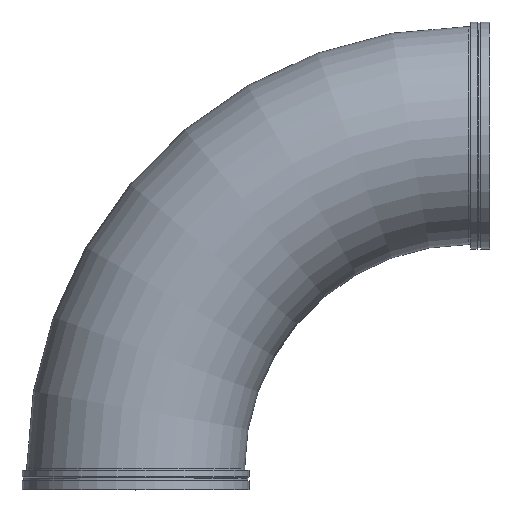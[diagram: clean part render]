
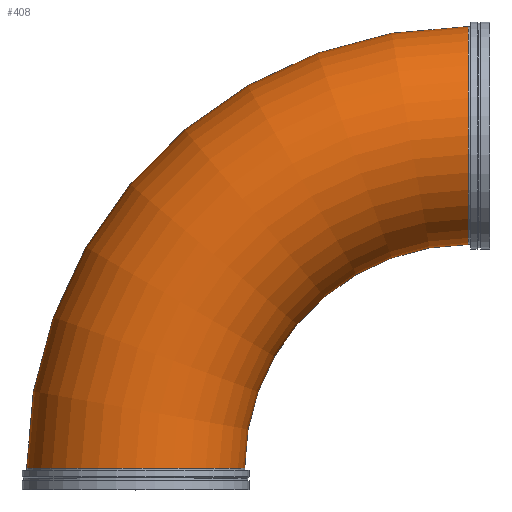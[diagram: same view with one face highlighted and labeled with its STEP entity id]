
A CAD part, top view. The second image highlights one B-rep face of the part: STEP entity #408.
In plain terms, the highlighted toroidal (fillet/blend) face has major radius 1860.55 mm and minor radius 609.6 mm.
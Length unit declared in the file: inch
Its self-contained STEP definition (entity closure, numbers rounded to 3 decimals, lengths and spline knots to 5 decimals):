
#46=TOROIDAL_SURFACE('',#484,73.25,24.);
#105=FACE_OUTER_BOUND('',#129,.T.);
#129=EDGE_LOOP('',(#346,#347,#348,#349,#350,#351));
#169=CIRCLE('',#482,24.);
#170=CIRCLE('',#483,24.);
#171=CIRCLE('',#485,49.25);
#172=CIRCLE('',#486,24.);
#173=CIRCLE('',#487,24.);
#207=VERTEX_POINT('',#756);
#208=VERTEX_POINT('',#758);
#209=VERTEX_POINT('',#762);
#210=VERTEX_POINT('',#764);
#256=EDGE_CURVE('',#207,#208,#169,.T.);
#257=EDGE_CURVE('',#208,#207,#170,.T.);
#258=EDGE_CURVE('',#208,#209,#171,.T.);
#259=EDGE_CURVE('',#209,#210,#172,.T.);
#260=EDGE_CURVE('',#210,#209,#173,.T.);
#346=ORIENTED_EDGE('',*,*,#256,.F.);
#347=ORIENTED_EDGE('',*,*,#257,.F.);
#348=ORIENTED_EDGE('',*,*,#258,.T.);
#349=ORIENTED_EDGE('',*,*,#259,.T.);
#350=ORIENTED_EDGE('',*,*,#260,.T.);
#351=ORIENTED_EDGE('',*,*,#258,.F.);
#408=ADVANCED_FACE('',(#105),#46,.T.);
#482=AXIS2_PLACEMENT_3D('',#759,#617,#618);
#483=AXIS2_PLACEMENT_3D('',#760,#619,#620);
#484=AXIS2_PLACEMENT_3D('',#761,#621,#622);
#485=AXIS2_PLACEMENT_3D('',#763,#623,#624);
#486=AXIS2_PLACEMENT_3D('',#765,#625,#626);
#487=AXIS2_PLACEMENT_3D('',#766,#627,#628);
#617=DIRECTION('center_axis',(1.,0.,0.));
#618=DIRECTION('ref_axis',(0.,-1.,0.));
#619=DIRECTION('center_axis',(1.,0.,0.));
#620=DIRECTION('ref_axis',(0.,-1.,0.));
#621=DIRECTION('center_axis',(0.,0.,-1.));
#622=DIRECTION('ref_axis',(-1.,0.,0.));
#623=DIRECTION('center_axis',(0.,0.,1.));
#624=DIRECTION('ref_axis',(-1.,0.,0.));
#625=DIRECTION('center_axis',(0.,1.,0.));
#626=DIRECTION('ref_axis',(1.,0.,0.));
#627=DIRECTION('center_axis',(0.,1.,0.));
#628=DIRECTION('ref_axis',(1.,0.,0.));
#756=CARTESIAN_POINT('',(73.25,102.,0.));
#758=CARTESIAN_POINT('',(73.25,54.,0.));
#759=CARTESIAN_POINT('Origin',(73.25,78.,0.));
#760=CARTESIAN_POINT('Origin',(73.25,78.,0.));
#761=CARTESIAN_POINT('Origin',(73.25,4.75,0.));
#762=CARTESIAN_POINT('',(24.,4.75,0.));
#763=CARTESIAN_POINT('Origin',(73.25,4.75,0.));
#764=CARTESIAN_POINT('',(-24.,4.75,0.));
#765=CARTESIAN_POINT('Origin',(0.,4.75,0.));
#766=CARTESIAN_POINT('Origin',(0.,4.75,0.));
